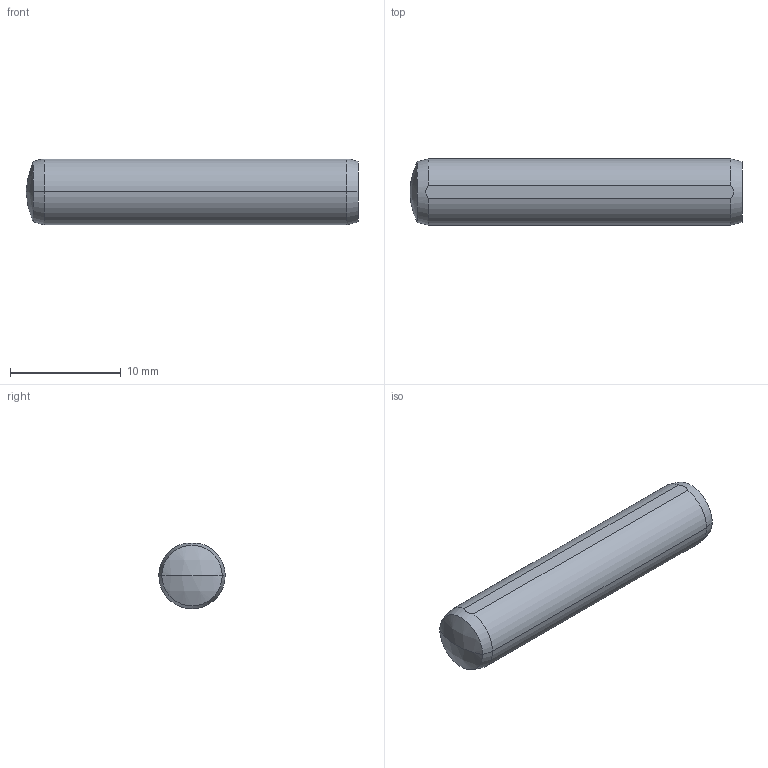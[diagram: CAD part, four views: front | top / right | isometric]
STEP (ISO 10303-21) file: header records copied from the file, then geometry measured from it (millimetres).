
FILE_DESCRIPTION (( 'STEP AP214' ), '1' );
FILE_NAME ('DIN7979_06x030.STEP', '2020-06-29T22:50:23', ( '' ), ( '' ), 'SwSTEP 2.0', 'SolidWorks 2014', '' );
FILE_SCHEMA (( 'AUTOMOTIVE_DESIGN' ));
Length unit declared in the file: millimetre
Products named in the file (1): DIN7979_06x030
Bounding box: 30 x 6 x 5.94 mm (x, y, z)
Volume: 742.9 mm3; surface area: 705.8 mm2
Topology: 1 solids, 1 shells, 15 faces, 32 edges, 18 vertices
Faces by surface type: cone 6, cylinder 5, sphere 2, plane 2
Entity records: 440 total; most frequent: CARTESIAN_POINT 82, DIRECTION 76, ORIENTED_EDGE 60, AXIS2_PLACEMENT_3D 32, EDGE_CURVE 30, VERTEX_POINT 18, EDGE_LOOP 16, CIRCLE 16
